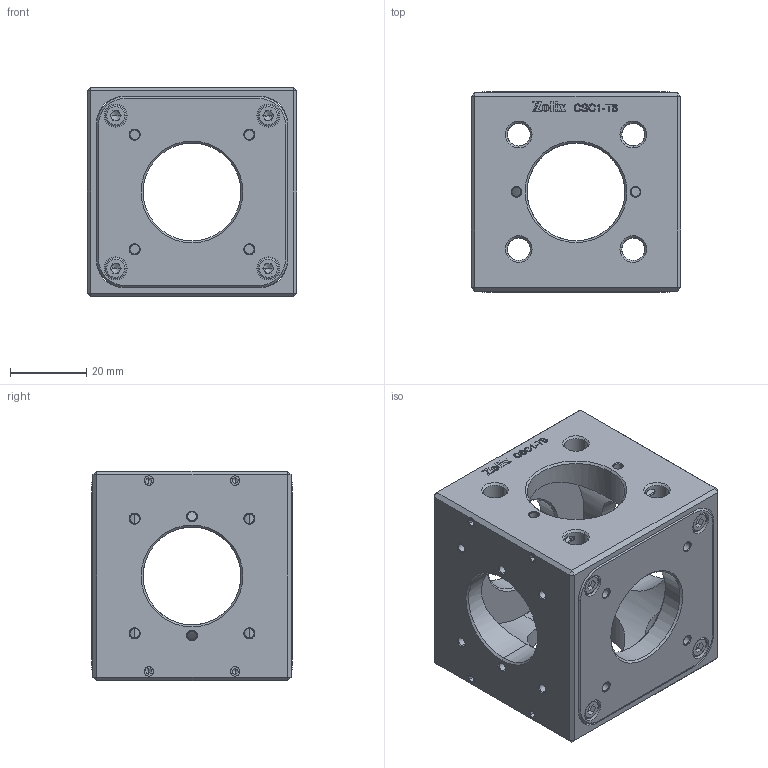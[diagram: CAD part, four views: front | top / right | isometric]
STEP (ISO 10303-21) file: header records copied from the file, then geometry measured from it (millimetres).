
FILE_DESCRIPTION (( 'STEP AP203' ), '1' );
FILE_NAME ('CSC1-T6-B.STEP', '2023-11-24T04:54:22', ( '' ), ( '' ), 'SwSTEP 2.0', 'SolidWorks 2021', '' );
FILE_SCHEMA (( 'CONFIG_CONTROL_DESIGN' ));
Length unit declared in the file: millimetre
Products named in the file (1): CSC1-T6-B
Bounding box: 55 x 52.4 x 55 mm (x, y, z)
Surface area: 30541.4 mm2 (no closed solid volume)
Topology: 0 solids, 28 shells, 493 faces, 1724 edges, 1218 vertices
Faces by surface type: plane 205, cone 140, cylinder 126, torus 16, bspline 6
Entity records: 21184 total; most frequent: CARTESIAN_POINT 6536, DIRECTION 3018, ORIENTED_EDGE 2654, EDGE_CURVE 1692, VERTEX_POINT 1218, LINE 1066, VECTOR 1066, AXIS2_PLACEMENT_3D 976
